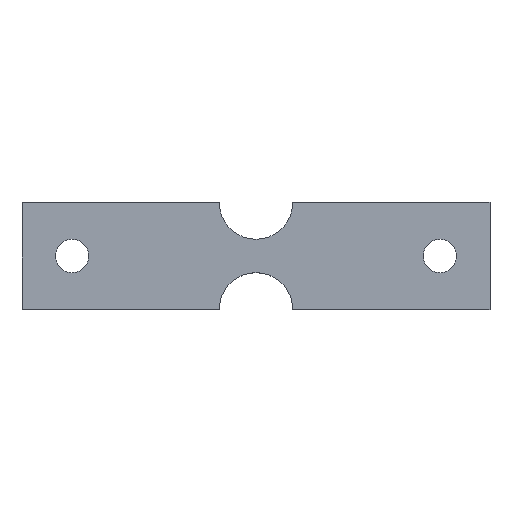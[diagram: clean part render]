
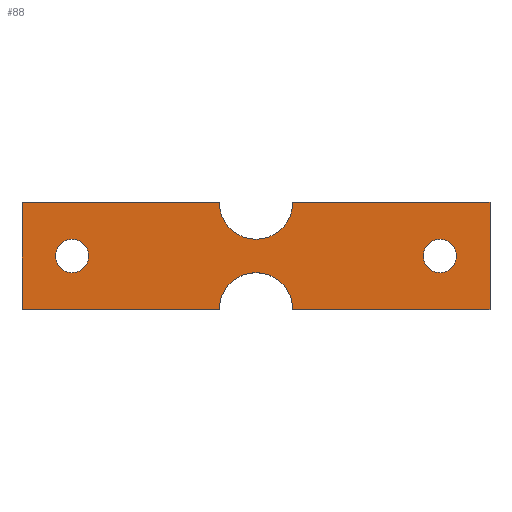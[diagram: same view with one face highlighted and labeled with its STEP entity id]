
A CAD part, top view. The second image highlights one B-rep face of the part: STEP entity #88.
In plain terms, the highlighted planar face has unit normal (0, 0, 1).
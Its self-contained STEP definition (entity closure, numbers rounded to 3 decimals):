
#24 = VERTEX_POINT('',#25);
#25 = CARTESIAN_POINT('',(-70.,-16.,6.));
#40 = VERTEX_POINT('',#41);
#41 = CARTESIAN_POINT('',(-70.,16.,6.));
#47 = EDGE_CURVE('',#24,#40,#48,.T.);
#48 = LINE('',#49,#50);
#49 = CARTESIAN_POINT('',(-70.,-16.,6.));
#50 = VECTOR('',#51,1.);
#51 = DIRECTION('',(-0.,1.,0.));
#64 = VERTEX_POINT('',#65);
#65 = CARTESIAN_POINT('',(-11.,-16.,6.));
#78 = EDGE_CURVE('',#24,#64,#79,.T.);
#79 = LINE('',#80,#81);
#80 = CARTESIAN_POINT('',(-70.,-16.,6.));
#81 = VECTOR('',#82,1.);
#82 = DIRECTION('',(1.,0.,-0.));
#88 = ADVANCED_FACE('',(#89,#141,#152),#163,.T.);
#89 = FACE_BOUND('',#90,.T.);
#90 = EDGE_LOOP('',(#91,#99,#100,#101,#110,#118,#126,#134));
#91 = ORIENTED_EDGE('',*,*,#92,.F.);
#92 = EDGE_CURVE('',#40,#93,#95,.T.);
#93 = VERTEX_POINT('',#94);
#94 = CARTESIAN_POINT('',(-11.,16.,6.));
#95 = LINE('',#96,#97);
#96 = CARTESIAN_POINT('',(-70.,16.,6.));
#97 = VECTOR('',#98,1.);
#98 = DIRECTION('',(1.,0.,-0.));
#99 = ORIENTED_EDGE('',*,*,#47,.F.);
#100 = ORIENTED_EDGE('',*,*,#78,.T.);
#101 = ORIENTED_EDGE('',*,*,#102,.F.);
#102 = EDGE_CURVE('',#103,#64,#105,.T.);
#103 = VERTEX_POINT('',#104);
#104 = CARTESIAN_POINT('',(11.,-16.,6.));
#105 = CIRCLE('',#106,11.);
#106 = AXIS2_PLACEMENT_3D('',#107,#108,#109);
#107 = CARTESIAN_POINT('',(0.,-16.,6.));
#108 = DIRECTION('',(0.,0.,1.));
#109 = DIRECTION('',(1.,0.,-0.));
#110 = ORIENTED_EDGE('',*,*,#111,.T.);
#111 = EDGE_CURVE('',#103,#112,#114,.T.);
#112 = VERTEX_POINT('',#113);
#113 = CARTESIAN_POINT('',(70.,-16.,6.));
#114 = LINE('',#115,#116);
#115 = CARTESIAN_POINT('',(-70.,-16.,6.));
#116 = VECTOR('',#117,1.);
#117 = DIRECTION('',(1.,0.,-0.));
#118 = ORIENTED_EDGE('',*,*,#119,.T.);
#119 = EDGE_CURVE('',#112,#120,#122,.T.);
#120 = VERTEX_POINT('',#121);
#121 = CARTESIAN_POINT('',(70.,16.,6.));
#122 = LINE('',#123,#124);
#123 = CARTESIAN_POINT('',(70.,-16.,6.));
#124 = VECTOR('',#125,1.);
#125 = DIRECTION('',(-0.,1.,0.));
#126 = ORIENTED_EDGE('',*,*,#127,.F.);
#127 = EDGE_CURVE('',#128,#120,#130,.T.);
#128 = VERTEX_POINT('',#129);
#129 = CARTESIAN_POINT('',(11.,16.,6.));
#130 = LINE('',#131,#132);
#131 = CARTESIAN_POINT('',(-70.,16.,6.));
#132 = VECTOR('',#133,1.);
#133 = DIRECTION('',(1.,0.,-0.));
#134 = ORIENTED_EDGE('',*,*,#135,.F.);
#135 = EDGE_CURVE('',#93,#128,#136,.T.);
#136 = CIRCLE('',#137,11.);
#137 = AXIS2_PLACEMENT_3D('',#138,#139,#140);
#138 = CARTESIAN_POINT('',(0.,16.,6.));
#139 = DIRECTION('',(0.,0.,1.));
#140 = DIRECTION('',(1.,0.,-0.));
#141 = FACE_BOUND('',#142,.T.);
#142 = EDGE_LOOP('',(#143));
#143 = ORIENTED_EDGE('',*,*,#144,.F.);
#144 = EDGE_CURVE('',#145,#145,#147,.T.);
#145 = VERTEX_POINT('',#146);
#146 = CARTESIAN_POINT('',(-50.,0.,6.));
#147 = CIRCLE('',#148,5.);
#148 = AXIS2_PLACEMENT_3D('',#149,#150,#151);
#149 = CARTESIAN_POINT('',(-55.,0.,6.));
#150 = DIRECTION('',(0.,0.,1.));
#151 = DIRECTION('',(1.,0.,-0.));
#152 = FACE_BOUND('',#153,.T.);
#153 = EDGE_LOOP('',(#154));
#154 = ORIENTED_EDGE('',*,*,#155,.F.);
#155 = EDGE_CURVE('',#156,#156,#158,.T.);
#156 = VERTEX_POINT('',#157);
#157 = CARTESIAN_POINT('',(60.,0.,6.));
#158 = CIRCLE('',#159,5.);
#159 = AXIS2_PLACEMENT_3D('',#160,#161,#162);
#160 = CARTESIAN_POINT('',(55.,0.,6.));
#161 = DIRECTION('',(0.,0.,1.));
#162 = DIRECTION('',(1.,0.,-0.));
#163 = PLANE('',#164);
#164 = AXIS2_PLACEMENT_3D('',#165,#166,#167);
#165 = CARTESIAN_POINT('',(-70.,-16.,6.));
#166 = DIRECTION('',(0.,0.,1.));
#167 = DIRECTION('',(1.,0.,-0.));
